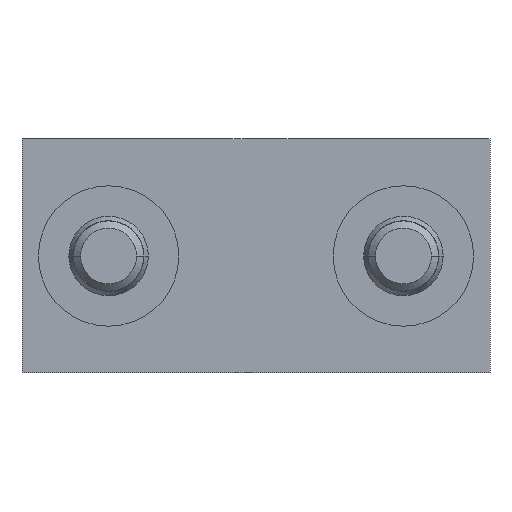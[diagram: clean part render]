
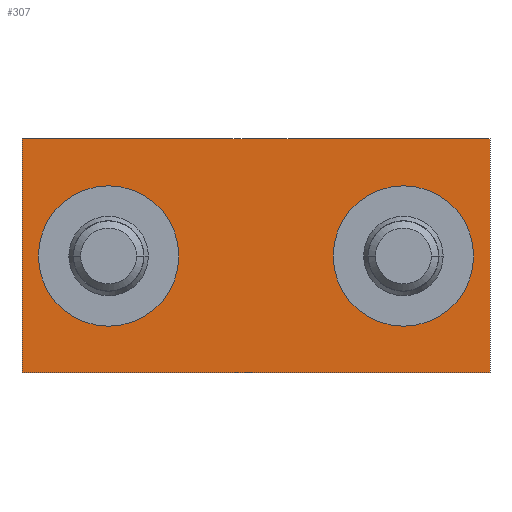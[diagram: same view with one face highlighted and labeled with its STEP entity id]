
A CAD part, front view. The second image highlights one B-rep face of the part: STEP entity #307.
In plain terms, the highlighted planar face has unit normal (0, -1, 0).
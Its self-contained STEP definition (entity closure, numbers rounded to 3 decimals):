
#307 = ADVANCED_FACE( '', ( #502, #503, #504 ), #505, .T. );
#502 = FACE_BOUND( '', #702, .T. );
#503 = FACE_BOUND( '', #703, .T. );
#504 = FACE_OUTER_BOUND( '', #704, .T. );
#505 = PLANE( '', #705 );
#702 = EDGE_LOOP( '', ( #1428, #1429 ) );
#703 = EDGE_LOOP( '', ( #1430, #1431 ) );
#704 = EDGE_LOOP( '', ( #1432, #1433, #1434, #1435 ) );
#705 = AXIS2_PLACEMENT_3D( '', #1436, #1437, #1438 );
#1428 = ORIENTED_EDGE( '', *, *, #1679, .T. );
#1429 = ORIENTED_EDGE( '', *, *, #1669, .T. );
#1430 = ORIENTED_EDGE( '', *, *, #1683, .T. );
#1431 = ORIENTED_EDGE( '', *, *, #1661, .T. );
#1432 = ORIENTED_EDGE( '', *, *, #1697, .T. );
#1433 = ORIENTED_EDGE( '', *, *, #1698, .F. );
#1434 = ORIENTED_EDGE( '', *, *, #1699, .F. );
#1435 = ORIENTED_EDGE( '', *, *, #1695, .T. );
#1436 = CARTESIAN_POINT( '', ( 10., -6.5, -5. ) );
#1437 = DIRECTION( '', ( 0., -1., 0. ) );
#1438 = DIRECTION( '', ( 1., 0., 0. ) );
#1661 = EDGE_CURVE( '', #2035, #2032, #2036, .T. );
#1669 = EDGE_CURVE( '', #2051, #2048, #2052, .T. );
#1679 = EDGE_CURVE( '', #2048, #2051, #2067, .T. );
#1683 = EDGE_CURVE( '', #2032, #2035, #2071, .T. );
#1695 = EDGE_CURVE( '', #2092, #2090, #2093, .T. );
#1697 = EDGE_CURVE( '', #2090, #2095, #2096, .T. );
#1698 = EDGE_CURVE( '', #2097, #2095, #2098, .T. );
#1699 = EDGE_CURVE( '', #2092, #2097, #2099, .T. );
#2032 = VERTEX_POINT( '', #2716 );
#2035 = VERTEX_POINT( '', #2720 );
#2036 = CIRCLE( '', #2721, 3. );
#2048 = VERTEX_POINT( '', #2736 );
#2051 = VERTEX_POINT( '', #2740 );
#2052 = CIRCLE( '', #2741, 3. );
#2067 = CIRCLE( '', #2759, 3. );
#2071 = CIRCLE( '', #2763, 3. );
#2090 = VERTEX_POINT( '', #2790 );
#2092 = VERTEX_POINT( '', #2793 );
#2093 = LINE( '', #2794, #2795 );
#2095 = VERTEX_POINT( '', #2798 );
#2096 = LINE( '', #2799, #2800 );
#2097 = VERTEX_POINT( '', #2801 );
#2098 = LINE( '', #2802, #2803 );
#2099 = LINE( '', #2804, #2805 );
#2716 = CARTESIAN_POINT( '', ( 9.3, -6.5, 0. ) );
#2720 = CARTESIAN_POINT( '', ( 3.3, -6.5, 0. ) );
#2721 = AXIS2_PLACEMENT_3D( '', #3191, #3192, #3193 );
#2736 = CARTESIAN_POINT( '', ( -3.3, -6.5, 0. ) );
#2740 = CARTESIAN_POINT( '', ( -9.3, -6.5, 0. ) );
#2741 = AXIS2_PLACEMENT_3D( '', #3207, #3208, #3209 );
#2759 = AXIS2_PLACEMENT_3D( '', #3231, #3232, #3233 );
#2763 = AXIS2_PLACEMENT_3D( '', #3243, #3244, #3245 );
#2790 = CARTESIAN_POINT( '', ( 10., -6.5, 5. ) );
#2793 = CARTESIAN_POINT( '', ( 10., -6.5, -5. ) );
#2794 = CARTESIAN_POINT( '', ( 10., -6.5, -5. ) );
#2795 = VECTOR( '', #3261, 1. );
#2798 = CARTESIAN_POINT( '', ( -10., -6.5, 5. ) );
#2799 = CARTESIAN_POINT( '', ( 10., -6.5, 5. ) );
#2800 = VECTOR( '', #3263, 1. );
#2801 = CARTESIAN_POINT( '', ( -10., -6.5, -5. ) );
#2802 = CARTESIAN_POINT( '', ( -10., -6.5, -5. ) );
#2803 = VECTOR( '', #3264, 1. );
#2804 = CARTESIAN_POINT( '', ( 10., -6.5, -5. ) );
#2805 = VECTOR( '', #3265, 1. );
#3191 = CARTESIAN_POINT( '', ( 6.3, -6.5, 0. ) );
#3192 = DIRECTION( '', ( 0., 1., 0. ) );
#3193 = DIRECTION( '', ( 1., 0., 0. ) );
#3207 = CARTESIAN_POINT( '', ( -6.3, -6.5, 0. ) );
#3208 = DIRECTION( '', ( 0., 1., 0. ) );
#3209 = DIRECTION( '', ( 1., 0., 0. ) );
#3231 = CARTESIAN_POINT( '', ( -6.3, -6.5, 0. ) );
#3232 = DIRECTION( '', ( 0., 1., 0. ) );
#3233 = DIRECTION( '', ( 1., 0., 0. ) );
#3243 = CARTESIAN_POINT( '', ( 6.3, -6.5, 0. ) );
#3244 = DIRECTION( '', ( 0., 1., 0. ) );
#3245 = DIRECTION( '', ( 1., 0., 0. ) );
#3261 = DIRECTION( '', ( 0., 0., 1. ) );
#3263 = DIRECTION( '', ( -1., 0., 0. ) );
#3264 = DIRECTION( '', ( 0., 0., 1. ) );
#3265 = DIRECTION( '', ( -1., 0., 0. ) );
